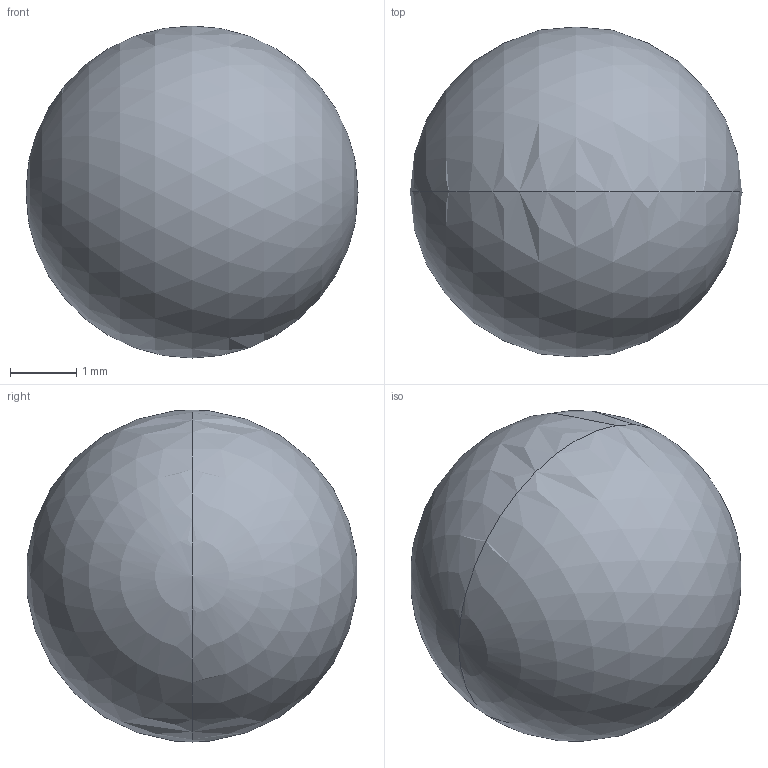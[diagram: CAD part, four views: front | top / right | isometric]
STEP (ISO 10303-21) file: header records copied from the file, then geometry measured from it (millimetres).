
FILE_DESCRIPTION((''),'2;1');
FILE_NAME('6MM_STEEL_BALL','2024-05-16T11:49:30',('qinghui.yi'),(''),'CREO PARAMETRIC BY PTC INC, 2019164','CREO PARAMETRIC BY PTC INC, 2019164','');
FILE_SCHEMA(('CONFIG_CONTROL_DESIGN','SHAPE_APPEARANCE_LAYERS_GROUPS'));
Length unit declared in the file: millimetre
Products named in the file (1): 6MM_STEEL_BALL
Bounding box: 5 x 4.97 x 5 mm (x, y, z)
Volume: 65.4 mm3; surface area: 78.5 mm2
Topology: 1 solids, 1 shells, 2 faces, 9 edges, 8 vertices
Faces by surface type: sphere 2
Entity records: 443 total; most frequent: COLOUR_RGB 312, DIRECTION 13, CARTESIAN_POINT 10, DRAUGHTING_PRE_DEFINED_COLOUR 8, AXIS2_PLACEMENT_3D 5, ORIENTED_EDGE 4, CURVE_STYLE 4, PRESENTATION_STYLE_ASSIGNMENT 4
